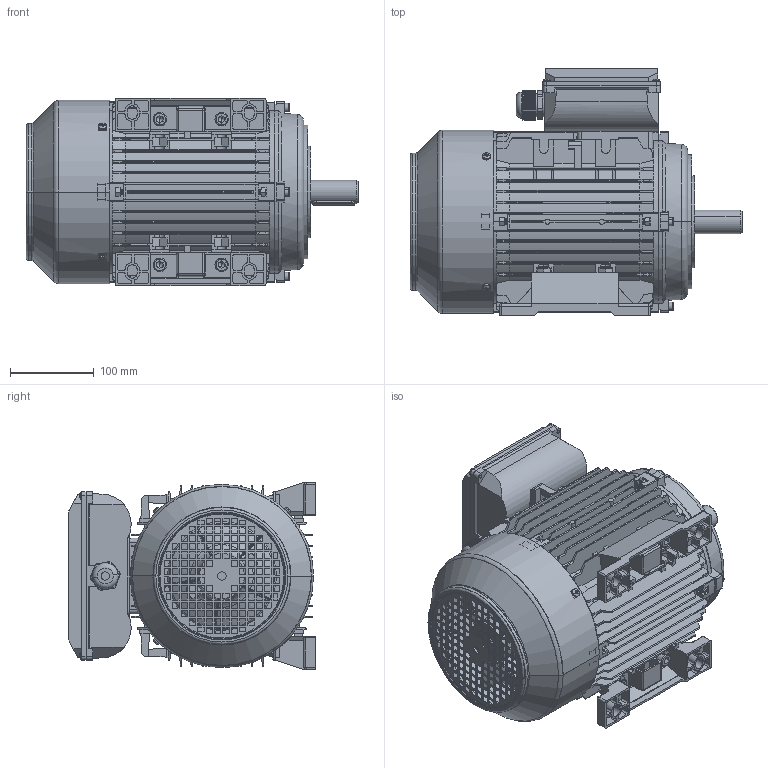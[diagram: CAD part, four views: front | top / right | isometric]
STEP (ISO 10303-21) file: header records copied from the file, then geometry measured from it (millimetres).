
FILE_DESCRIPTION (( 'STEP AP203' ), '1' );
FILE_NAME ('ML2 112 B34(臏諉盄碟).STEP', '2024-01-20T08:49:37', ( '' ), ( '' ), 'SwSTEP 2.0', 'SolidWorks 2016', '' );
FILE_SCHEMA (( 'CONFIG_CONTROL_DESIGN' ));
Length unit declared in the file: millimetre
Products named in the file (19): hexagon socket head cap screws gb_GB_FASTENER_SCREWS_HSHCS M6X30-N; TA112綴裔1; hexagon nuts grade c gb_GB_FASTENER_NUT_SNC1 M6-N; cross recessed thread forming screws gb_GB_CROSS_SCREWS_TYPE138 M4X10-N; 112-132堤盄蹟杶; T112蛌粣; hexagon socket head cap screws gb_GB_FASTENER_SCREWS_HSHCS M10X25-N; hexagon nuts grade c gb_GB_FASTENER_NUT_SNC1 M10-N; TA112瑞欶; plain parallel keys_GB_CONNECTING_PIECE_KEYS_CSK 8X50; ML112諉盄碟蚾饜极; TA112B14楊擘1; T112儂褲; ML2 112 B34(臏諉盄碟); cross recessed thread forming screws gb_GB_CROSS_SCREWS_TYPE138 M5X12-N; MS112 瑞珔; ML100-ML112諉盄碟裔(臏); ML100-ML112諉盄碟釱(臏); T112菁褐
Assembly tree (40 placements, depth 3):
  ML2 112 B34(臏諉盄碟)
    T112儂褲
    T112菁褐  x2
    TA112綴裔1
    TA112瑞欶
    MS112 瑞珔
    T112蛌粣
    hexagon socket head cap screws gb_GB_FASTENER_SCREWS_HSHCS M10X25-N  x4
    cross recessed thread forming screws gb_GB_CROSS_SCREWS_TYPE138 M5X12-N  x3
    hexagon nuts grade c gb_GB_FASTENER_NUT_SNC1 M6-N  x6
    hexagon nuts grade c gb_GB_FASTENER_NUT_SNC1 M10-N  x4
    plain parallel keys_GB_CONNECTING_PIECE_KEYS_CSK 8X50
    hexagon socket head cap screws gb_GB_FASTENER_SCREWS_HSHCS M6X30-N  x6
    TA112B14楊擘1
    ML112諉盄碟蚾饜极
      112-132堤盄蹟杶
      cross recessed thread forming screws gb_GB_CROSS_SCREWS_TYPE138 M4X10-N  x4
      ML100-ML112諉盄碟釱(臏)
      ML100-ML112諉盄碟裔(臏)
Bounding box: 397 x 295.5 x 224 mm (x, y, z)
Volume: 2311856.6 mm3; surface area: 1355231.4 mm2
Topology: 39 solids, 39 shells, 4252 faces, 11640 edges, 7540 vertices
Faces by surface type: plane 2715, cylinder 1091, cone 247, torus 121, sphere 62, bspline 16
Entity records: 125128 total; most frequent: CARTESIAN_POINT 29609, ORIENTED_EDGE 20234, DIRECTION 18193, EDGE_CURVE 10117, LINE 6759, VECTOR 6759, VERTEX_POINT 6594, AXIS2_PLACEMENT_3D 5717
